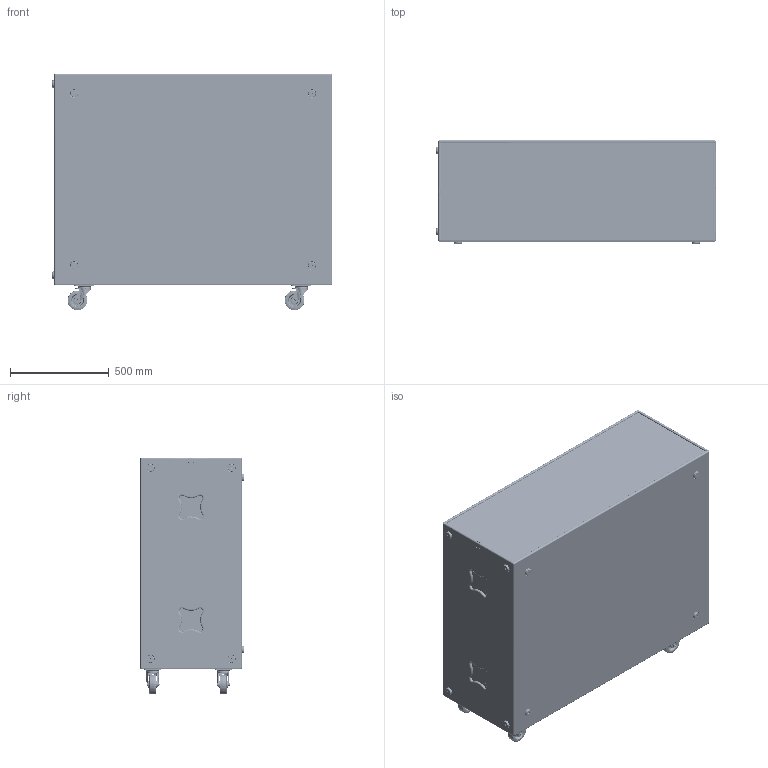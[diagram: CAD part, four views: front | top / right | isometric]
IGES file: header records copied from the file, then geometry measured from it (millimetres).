
Start section: SolidWorks IGES file using analytic representation for surfaces
Global section: file name: C:\Dokumente und Einstellungen\PC_Fabian\Desktop\TS-Serie\Seeburg_TSE-infra.IGS; native system: SolidWorks 2009; preprocessor: SolidWorks 2009; author: PC_Fabian; date: 121017.140924; units: millimetre
Bounding box: 1412 x 522 x 1196.06 mm (x, y, z)
Surface area: 11766891.5 mm2 (no closed solid volume)
Topology: 0 solids, 0 shells, 2142 faces, 28631 edges, 28603 vertices
Faces by surface type: bspline 1190, revolution 952
